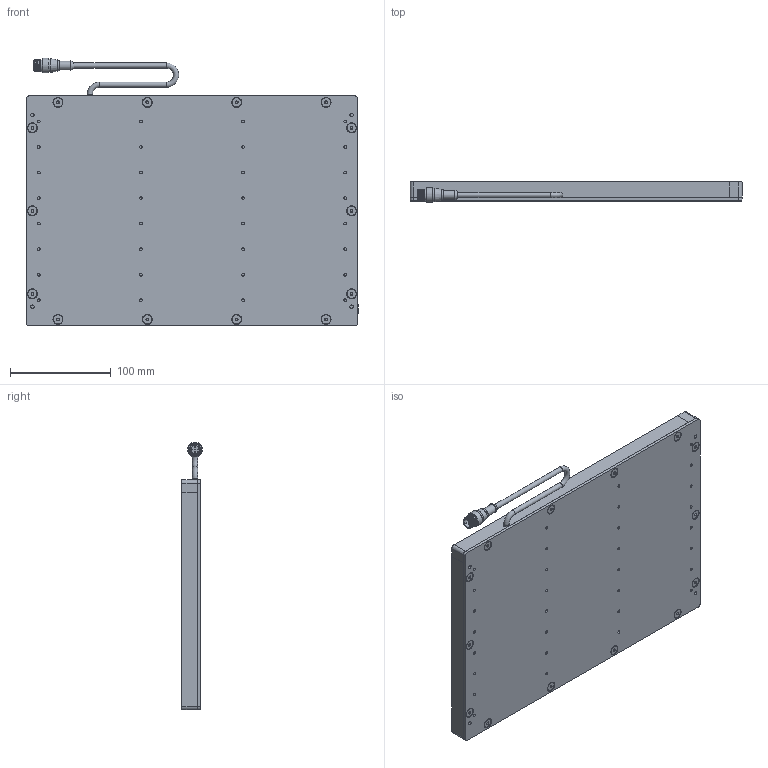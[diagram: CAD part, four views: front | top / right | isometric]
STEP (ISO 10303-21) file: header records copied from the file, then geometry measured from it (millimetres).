
FILE_DESCRIPTION (( 'STEP AP214' ), '1' );
FILE_NAME ('SBL812-XXX-WDC.STEP', '2026-04-17T19:26:05', ( '' ), ( '' ), 'SwSTEP 2.0', 'SolidWorks 2025', '' );
FILE_SCHEMA (( 'AUTOMOTIVE_DESIGN' ));
Length unit declared in the file: inch
Products named in the file (11): SBL3 to 18in rail_08in No CG; SBL3 to 18in rail_12in No CG; WD-SBLYYXX_8x12; Hex Standoff .375 x 8-32; SBL812-XXX-WDC; SC Pigtail Complete 18_5pin; MC Pigtail 24; 8-32 x 0.375 FHCS (92210A192)_92210A192; M12 Connector 4,5 and 8 pin_RS4.5T; SBL3 to 18in rail_12in rail; BackPlate BLYYXX_0812
Assembly tree (37 placements, depth 3):
  SBL812-XXX-WDC
    BackPlate BLYYXX_0812
    SBL3 to 18in rail_12in rail
    SBL3 to 18in rail_12in No CG
    SBL3 to 18in rail_08in No CG  x2
    SC Pigtail Complete 18_5pin
      MC Pigtail 24
      M12 Connector 4,5 and 8 pin_RS4.5T
    WD-SBLYYXX_8x12
    Hex Standoff .375 x 8-32  x14
    8-32 x 0.375 FHCS (92210A192)_92210A192  x14
Bounding box: 330.2 x 20.74 x 266.13 mm (x, y, z)
Volume: 643044.3 mm3; surface area: 387824.5 mm2
Topology: 36 solids, 36 shells, 972 faces, 2258 edges, 1387 vertices
Faces by surface type: plane 389, cylinder 280, cone 229, bspline 42, torus 27, sphere 5
Full cylindrical faces by diameter (mm): 0.762 x5, 2.705 x32, 3.454 x18, 4.496 x28, 5.207 x3, 6.604 x8, 6.858 x14, 8.382 x1, 8.636 x1, 9.119 x14, 10.16 x1, 10.541 x1, 11.938 x1, 13.716 x2, 14.732 x1
Entity records: 15727 total; most frequent: CARTESIAN_POINT 4065, DIRECTION 2231, ORIENTED_EDGE 1782, AXIS2_PLACEMENT_3D 920, EDGE_CURVE 891, EDGE_LOOP 723, VERTEX_POINT 666, FACE_OUTER_BOUND 523
